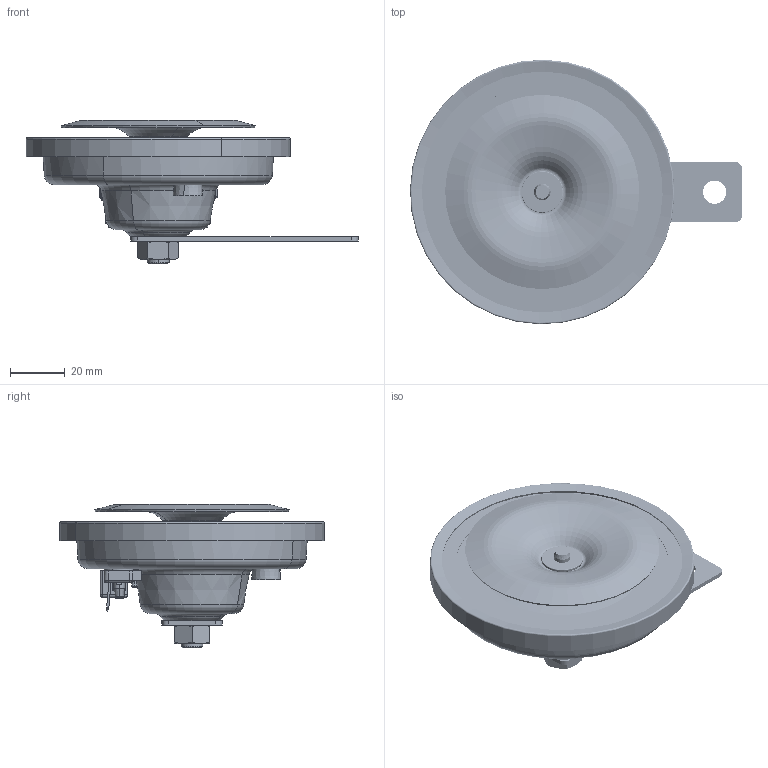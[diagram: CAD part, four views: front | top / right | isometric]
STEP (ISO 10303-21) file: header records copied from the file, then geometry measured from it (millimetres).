
FILE_DESCRIPTION(('CATIA V5 STEP Exchange','CAx-IF Rec.Pracs.--- Model Styling and Organization---1.5--- 2016-08-15','CAx-IF Rec.Pracs.---Supplemental Geometry---1.0---2011-11-01','CAx-IF Rec.Pracs.--- Composite Materials ---1.1---2010-07-15'),'2;1');
FILE_NAME('E:\tmp\ddx\2011226\HELLA_3D_data_Electromechanical_horn_B36_3AL-002-952-81.stp','2022-01-18T07:28:35+00:00',('none'),('none'),'CATIA Version 5-6 Release 2020 SP3 HF9','CATIA V5 STEP AP214 Edition 3 v2','none');
FILE_SCHEMA(('AUTOMOTIVE_DESIGN { 1 0 10303 214 3 1 1 1 }'));
Products named in the file (1): 10002462306_D10_001
Bounding box: 121.34 x 96.67 x 52.62 mm (x, y, z)
Volume: 43764.4 mm3; surface area: 93740.5 mm2
Topology: 3 solids, 11 shells, 1429 faces, 3843 edges, 2433 vertices
Faces by surface type: plane 634, cylinder 402, torus 174, cone 137, bspline 65, sphere 15, extrusion 2
Entity records: 65707 total; most frequent: CARTESIAN_POINT 33594, ORIENTED_EDGE 7648, DIRECTION 4938, EDGE_CURVE 3824, VERTEX_POINT 2434, AXIS2_PLACEMENT_3D 2237, VECTOR 1788, LINE 1786
